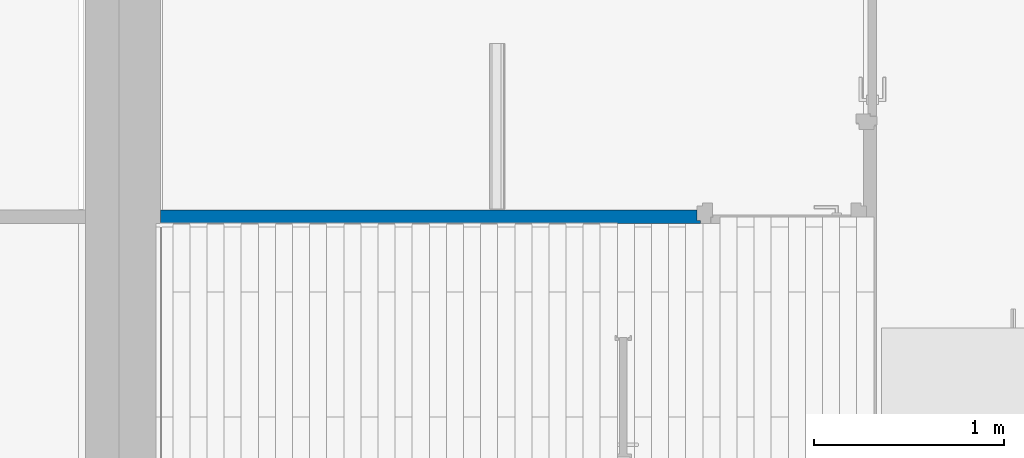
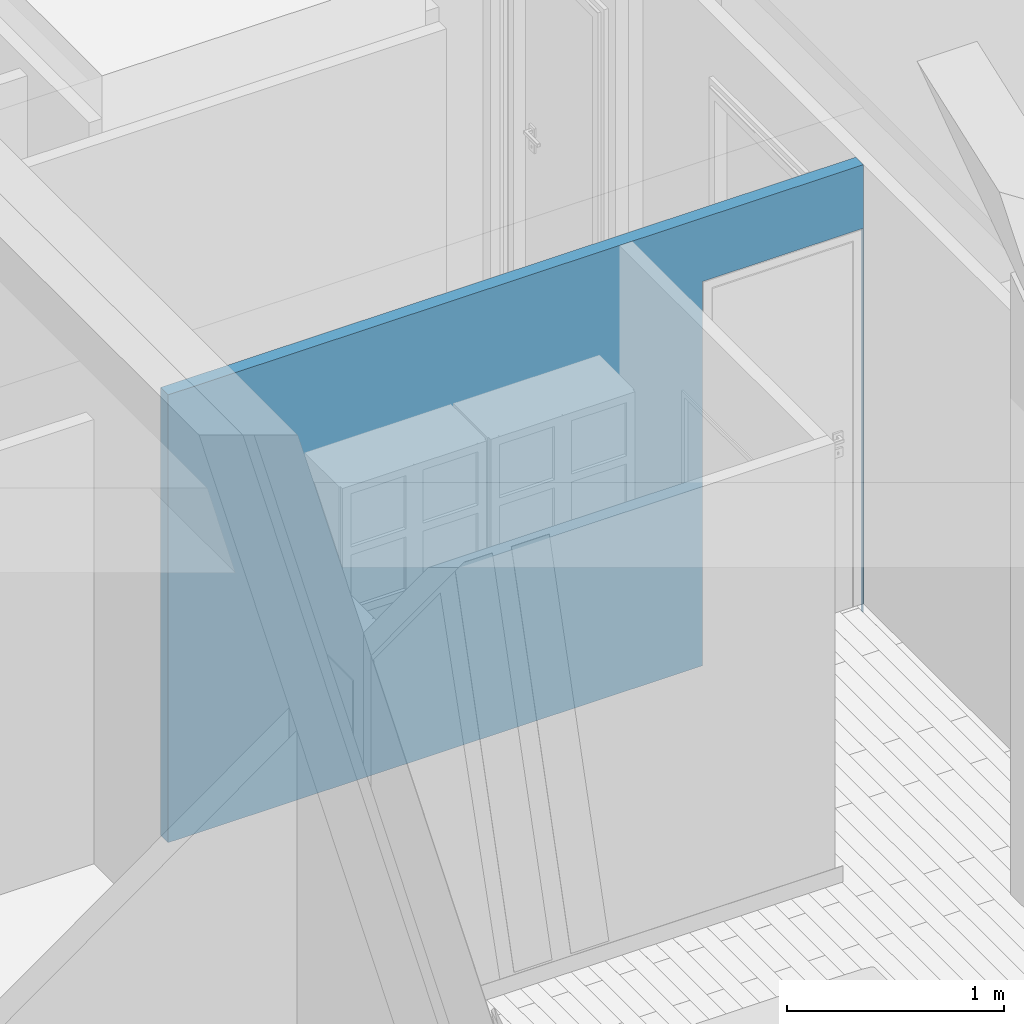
# One storey, part 39 of 61: 1 wall, 2 openings.
"""IFC2X3 building model written with IfcOpenShell, lengths in metres."""

from ifc_helpers import new_model, entity, si_unit, converted_unit, derived_unit, direction, frame, frame_2d, origin, place, context, subcontext, project, spatial, rectangle, extrude, faceted_brep, material, layer, layer_set, layer_usage, type_object, element, save


model = new_model("IFC2X3")

# Units and contexts
model_context = context("Model", 3, precision=1e-05, world=origin(), true_north=direction((6.12303176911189e-17, 1.0)))
body_context = subcontext(model_context, "Body", "Model", "MODEL_VIEW")
ifc_project = project(units=[si_unit("LENGTHUNIT", "METRE"), si_unit("AREAUNIT", "SQUARE_METRE"), si_unit("VOLUMEUNIT", "CUBIC_METRE"), converted_unit("PLANEANGLEUNIT", "DEGREE", entity("IfcRatioMeasure", 0.0174532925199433), si_unit("PLANEANGLEUNIT", "RADIAN"), dimensions=[0, 0, 0, 0, 0, 0, 0]), si_unit("MASSUNIT", "GRAM", prefix="KILO"), derived_unit("MASSDENSITYUNIT", [(si_unit("MASSUNIT", "GRAM", prefix="KILO"), 1), (si_unit("LENGTHUNIT", "METRE"), -3)]), si_unit("TIMEUNIT", "SECOND"), si_unit("FREQUENCYUNIT", "HERTZ"), si_unit("THERMODYNAMICTEMPERATUREUNIT", "DEGREE_CELSIUS"), derived_unit("THERMALTRANSMITTANCEUNIT", [(si_unit("MASSUNIT", "GRAM", prefix="KILO"), 1), (si_unit("THERMODYNAMICTEMPERATUREUNIT", "KELVIN"), -1), (si_unit("TIMEUNIT", "SECOND"), -3)]), derived_unit("VOLUMETRICFLOWRATEUNIT", [(si_unit("LENGTHUNIT", "METRE"), 3), (si_unit("TIMEUNIT", "SECOND"), -1)]), si_unit("ELECTRICCURRENTUNIT", "AMPERE"), si_unit("ELECTRICVOLTAGEUNIT", "VOLT"), si_unit("POWERUNIT", "WATT"), si_unit("FORCEUNIT", "NEWTON", prefix="KILO"), si_unit("ILLUMINANCEUNIT", "LUX"), si_unit("LUMINOUSFLUXUNIT", "LUMEN"), si_unit("LUMINOUSINTENSITYUNIT", "CANDELA"), derived_unit("USERDEFINED", [(si_unit("MASSUNIT", "GRAM", prefix="KILO"), -1), (si_unit("LENGTHUNIT", "METRE"), -2), (si_unit("TIMEUNIT", "SECOND"), 3), (si_unit("LUMINOUSFLUXUNIT", "LUMEN"), 1)]), derived_unit("LINEARVELOCITYUNIT", [(si_unit("LENGTHUNIT", "METRE"), 1), (si_unit("TIMEUNIT", "SECOND"), -1)]), si_unit("PRESSUREUNIT", "PASCAL"), derived_unit("USERDEFINED", [(si_unit("LENGTHUNIT", "METRE"), -2), (si_unit("MASSUNIT", "GRAM", prefix="KILO"), 1), (si_unit("TIMEUNIT", "SECOND"), -2)])], contexts=[model_context])

# Site, building, storey
site_placement = place(None, origin())
site = spatial("IfcSite", under=ifc_project, at=site_placement, Name="Surface", CompositionType="ELEMENT")
building_placement = place(site_placement, origin())
building = spatial("IfcBuilding", under=site, at=building_placement, CompositionType="ELEMENT")
storey_placement = place(building_placement, frame((0.0, 0.0, 2.82)))
storey = spatial("IfcBuildingStorey", under=building, at=storey_placement, Name="ETAGE", CompositionType="ELEMENT", Elevation=2.82)

# Wall, openings
ifc_material = material(Name="Peinture - Blanc")
ifc_layer = layer(ifc_material, 0.07)
ifc_layer_set = layer_set([ifc_layer], Name="Mur de base:Int.  Platre 70 mm en blanc")
ifc_layer_usage = layer_usage(ifc_layer_set, "AXIS2", "NEGATIVE", 0.035)
wall_type = type_object("IfcWallType", Name="Mur de base:Int.  Platre 70 mm en blanc", PredefinedType="STANDARD", material=ifc_layer_set)
wall_placement = place(storey_placement, frame((87.6267857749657, 86.6425239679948, 0.0), z_axis=(0.0, 0.0, 1.0), x_axis=(-1.0, 0.0, 0.0)))
wall = element("IfcWallStandardCase", 1, at=wall_placement, inside=storey, type_object=wall_type, material=ifc_layer_usage, Name="Mur de base:Int.  Platre 70 mm en blanc", ObjectType="Mur de base:Int.  Platre 70 mm en blanc", context=body_context, shape_type="SweptSolid", body=[
    extrude(rectangle(XDim=3.70038340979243, YDim=0.0699999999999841, at=frame_2d((1.85019170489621, 0.0), x_axis=(-1.0, 0.0))), origin(), (0.0, 0.0, 1.0), 2.52000000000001),
])
opening_1_placement = place(wall_placement, frame((1.45, 1.26499999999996, 0.0)))
element("IfcOpeningElement", 2, at=opening_1_placement, cuts=wall, Name="Mur de base:Int.  Platre 70 mm en blanc", ObjectType="Opening", context=body_context, shape_type="Brep", body=[
    faceted_brep([(0.0, -0.629999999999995, 2.055), (0.0, 0.0, 2.055), (-0.370000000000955, 0.0, 2.055), (-0.370000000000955, -0.629999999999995, 2.055), (-0.210000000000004, -0.629999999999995, 2.055), (-0.210000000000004, -1.23, 2.055), (-0.159999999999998, -1.23, 2.055), (-0.159999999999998, -0.629999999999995, 2.055), (0.0, -0.629999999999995, 0.0), (-0.159999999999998, -0.629999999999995, 0.0), (-0.159999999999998, -1.23, 0.0), (-0.210000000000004, -1.23, 0.0), (-0.210000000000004, -0.629999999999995, 0.0), (-0.370000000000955, -0.629999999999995, 0.0), (-0.370000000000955, 0.0, 0.0), (0.0, 0.0, 0.0)], [[[0, 1, 2, 3, 4, 5, 6, 7]], [[8, 9, 10, 11, 12, 13, 14, 15]], [[1, 0, 8, 15]], [[2, 1, 15, 14]], [[3, 2, 14, 13]], [[4, 3, 13, 12]], [[5, 4, 12, 11]], [[6, 5, 11, 10]], [[7, 6, 10, 9]], [[0, 7, 9, 8]]]),
])
opening_2_placement = place(wall_placement, frame((0.874999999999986, 0.214999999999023, 0.0), z_axis=(0.0, 0.0, 1.0), x_axis=(-1.0, 0.0, 0.0)))
element("IfcOpeningElement", 3, at=opening_2_placement, cuts=wall, Name="Mur de base:Int.  Platre 70 mm en blanc", ObjectType="Opening", context=body_context, shape_type="Brep", body=[
    faceted_brep([(0.0799999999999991, 0.0, 2.09999999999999), (0.0799999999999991, 0.0, 0.0), (0.810000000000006, 0.0, 0.0), (0.810000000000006, 0.0, 2.09999999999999), (0.0799999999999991, 0.893399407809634, 2.09999999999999), (0.810000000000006, 0.893399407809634, 2.09999999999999), (0.810000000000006, 0.893399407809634, 0.0), (0.0799999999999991, 0.893399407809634, 0.0), (0.0799999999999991, 0.179999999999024, 2.09999999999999), (0.0799999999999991, 0.179999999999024, 0.0), (0.0180000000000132, 0.179999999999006, 0.0), (0.0180000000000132, 0.19499999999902, 0.0), (0.0, 0.19499999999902, 0.0), (0.0, 0.272999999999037, 0.0), (0.0290000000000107, 0.272999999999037, 0.0), (0.0290000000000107, 0.249999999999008, 0.0), (0.0799999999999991, 0.249999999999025, 0.0), (0.810000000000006, 0.249999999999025, 0.0), (0.860999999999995, 0.249999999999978, 0.0), (0.860999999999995, 0.27299999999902, 0.0), (0.890000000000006, 0.27299999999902, 0.0), (0.890000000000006, 0.19499999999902, 0.0), (0.871999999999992, 0.19499999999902, 0.0), (0.871999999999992, 0.179999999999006, 0.0), (0.809999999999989, 0.179999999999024, 0.0), (0.809999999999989, 0.179999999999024, 2.09999999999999), (0.0290000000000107, 0.249999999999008, 2.15099999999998), (0.860999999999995, 0.249999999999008, 2.15099999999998), (0.810000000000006, 0.249999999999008, 2.09999999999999), (0.820999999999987, 0.249999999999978, 2.09999999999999), (0.820999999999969, 0.249999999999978, 2.11099999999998), (0.0690000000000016, 0.249999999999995, 2.11099999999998), (0.069000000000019, 0.249999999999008, 2.09999999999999), (0.0799999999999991, 0.249999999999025, 2.09999999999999), (0.871999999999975, 0.179999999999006, 2.16199999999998), (0.0179999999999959, 0.179999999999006, 2.16199999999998), (0.0690000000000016, 0.250499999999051, 2.09999999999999), (0.0690000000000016, 0.250499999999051, 2.11099999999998), (0.820999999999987, 0.250499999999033, 2.11099999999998), (0.820999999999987, 0.250499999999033, 2.09999999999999), (0.809999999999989, 0.250499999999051, 2.09999999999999), (0.0799999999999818, 0.250499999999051, 2.09999999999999), (0.0179999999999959, 0.19499999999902, 2.16199999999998), (0.871999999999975, 0.19499999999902, 2.16199999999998), (0.889999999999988, 0.19499999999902, 2.17999999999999), (0.0, 0.19499999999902, 2.17999999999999), (0.0, 0.27299999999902, 2.17999999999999), (0.889999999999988, 0.27299999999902, 2.17999999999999), (0.860999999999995, 0.27299999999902, 2.15099999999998), (0.0290000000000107, 0.27299999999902, 2.15099999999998)], [[[0, 1, 2, 3]], [[4, 5, 6, 7]], [[0, 8, 9, 1]], [[1, 9, 10, 11, 12, 13, 14, 15, 16, 7, 6, 17, 18, 19, 20, 21, 22, 23, 24, 2]], [[2, 24, 25, 3]], [[3, 25, 8, 0]], [[15, 26, 27, 18, 17, 28, 29, 30, 31, 32, 33, 16]], [[9, 8, 25, 24, 23, 34, 35, 10]], [[36, 32, 31, 37]], [[38, 30, 29, 39]], [[37, 31, 30, 38]], [[39, 40, 41, 36, 37, 38]], [[41, 33, 32, 36]], [[10, 35, 42, 11]], [[11, 42, 43, 22, 21, 44, 45, 12]], [[12, 45, 46, 13]], [[13, 46, 47, 20, 19, 48, 49, 14]], [[14, 49, 26, 15]], [[34, 43, 42, 35]], [[44, 47, 46, 45]], [[26, 49, 48, 27]], [[23, 22, 43, 34]], [[21, 20, 47, 44]], [[27, 48, 19, 18]], [[39, 29, 28, 40]], [[4, 41, 40, 5]], [[5, 40, 28, 17, 6]], [[7, 16, 33, 41, 4]]]),
])

save(model, "model.ifc")
